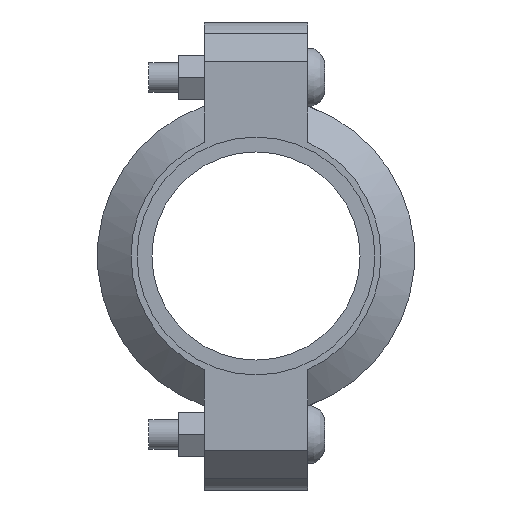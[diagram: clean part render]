
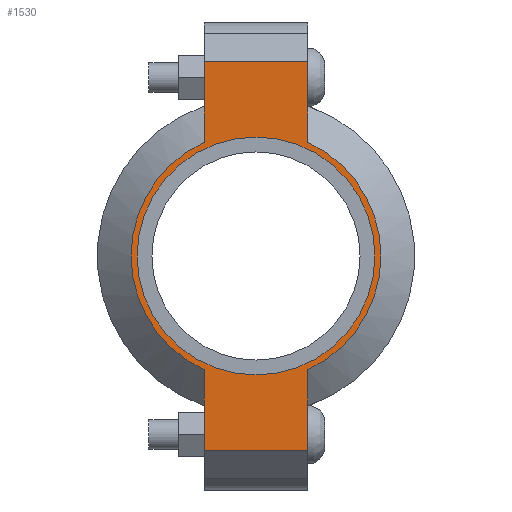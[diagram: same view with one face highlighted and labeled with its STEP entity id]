
A CAD part, left-side view. The second image highlights one B-rep face of the part: STEP entity #1530.
In plain terms, the highlighted planar face has unit normal (-1, 0, 0) as drawn and (0, 0, 1) by its records, which use the part's own axes.
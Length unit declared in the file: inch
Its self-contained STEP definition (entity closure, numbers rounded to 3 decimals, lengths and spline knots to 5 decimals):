
#192=LINE('',#2669,#285);
#205=LINE('',#2713,#298);
#210=LINE('',#2737,#303);
#217=LINE('',#2755,#310);
#224=LINE('',#2780,#317);
#225=LINE('',#2783,#318);
#285=VECTOR('',#2129,0.3937);
#298=VECTOR('',#2158,0.3937);
#303=VECTOR('',#2169,0.3937);
#310=VECTOR('',#2186,0.3937);
#317=VECTOR('',#2207,0.3937);
#318=VECTOR('',#2212,0.3937);
#366=FACE_BOUND('',#526,.T.);
#431=FACE_OUTER_BOUND('',#525,.T.);
#525=EDGE_LOOP('',(#1279,#1280,#1281,#1282,#1283,#1284,#1285,#1286));
#526=EDGE_LOOP('',(#1287));
#622=CIRCLE('',#1793,1.575);
#623=CIRCLE('',#1794,1.575);
#624=CIRCLE('',#1795,1.5);
#725=VERTEX_POINT('',#2664);
#726=VERTEX_POINT('',#2668);
#742=VERTEX_POINT('',#2710);
#743=VERTEX_POINT('',#2712);
#749=VERTEX_POINT('',#2732);
#750=VERTEX_POINT('',#2736);
#755=VERTEX_POINT('',#2752);
#756=VERTEX_POINT('',#2754);
#762=VERTEX_POINT('',#2785);
#892=EDGE_CURVE('',#726,#725,#192,.T.);
#912=EDGE_CURVE('',#743,#742,#205,.T.);
#921=EDGE_CURVE('',#750,#749,#210,.T.);
#930=EDGE_CURVE('',#756,#755,#217,.T.);
#942=EDGE_CURVE('',#750,#742,#224,.T.);
#943=EDGE_CURVE('',#749,#756,#622,.T.);
#944=EDGE_CURVE('',#726,#755,#225,.T.);
#945=EDGE_CURVE('',#725,#743,#623,.T.);
#946=EDGE_CURVE('',#762,#762,#624,.T.);
#1279=ORIENTED_EDGE('',*,*,#942,.F.);
#1280=ORIENTED_EDGE('',*,*,#921,.T.);
#1281=ORIENTED_EDGE('',*,*,#943,.T.);
#1282=ORIENTED_EDGE('',*,*,#930,.T.);
#1283=ORIENTED_EDGE('',*,*,#944,.F.);
#1284=ORIENTED_EDGE('',*,*,#892,.T.);
#1285=ORIENTED_EDGE('',*,*,#945,.T.);
#1286=ORIENTED_EDGE('',*,*,#912,.T.);
#1287=ORIENTED_EDGE('',*,*,#946,.T.);
#1383=PLANE('',#1792);
#1530=ADVANCED_FACE('',(#431,#366),#1383,.T.);
#1792=AXIS2_PLACEMENT_3D('',#2781,#2208,#2209);
#1793=AXIS2_PLACEMENT_3D('',#2782,#2210,#2211);
#1794=AXIS2_PLACEMENT_3D('',#2784,#2213,#2214);
#1795=AXIS2_PLACEMENT_3D('',#2786,#2215,#2216);
#2129=DIRECTION('',(1.,0.,0.));
#2158=DIRECTION('',(1.,0.,0.));
#2169=DIRECTION('',(-1.,0.,0.));
#2186=DIRECTION('',(-1.,0.,0.));
#2207=DIRECTION('',(0.,-1.,0.));
#2208=DIRECTION('center_axis',(0.,0.,1.));
#2209=DIRECTION('ref_axis',(-1.,0.,0.));
#2210=DIRECTION('center_axis',(0.,0.,1.));
#2211=DIRECTION('ref_axis',(1.,0.,0.));
#2212=DIRECTION('',(0.,1.,0.));
#2213=DIRECTION('center_axis',(0.,0.,1.));
#2214=DIRECTION('ref_axis',(1.,0.,0.));
#2215=DIRECTION('center_axis',(0.,0.,-1.));
#2216=DIRECTION('ref_axis',(1.,0.,0.));
#2664=CARTESIAN_POINT('',(-1.43462,-0.65,0.94));
#2668=CARTESIAN_POINT('',(-2.45,-0.65,0.94));
#2669=CARTESIAN_POINT('',(2.95,-0.65,0.94));
#2710=CARTESIAN_POINT('',(2.45,-0.65,0.94));
#2712=CARTESIAN_POINT('',(1.43462,-0.65,0.94));
#2713=CARTESIAN_POINT('',(2.95,-0.65,0.94));
#2732=CARTESIAN_POINT('',(1.43462,0.65,0.94));
#2736=CARTESIAN_POINT('',(2.45,0.65,0.94));
#2737=CARTESIAN_POINT('',(-2.95,0.65,0.94));
#2752=CARTESIAN_POINT('',(-2.45,0.65,0.94));
#2754=CARTESIAN_POINT('',(-1.43462,0.65,0.94));
#2755=CARTESIAN_POINT('',(-2.95,0.65,0.94));
#2780=CARTESIAN_POINT('',(2.45,-0.325,0.94));
#2781=CARTESIAN_POINT('Origin',(0.,0.,
0.94));
#2782=CARTESIAN_POINT('Origin',(0.,0.,0.94));
#2783=CARTESIAN_POINT('',(-2.45,0.325,0.94));
#2784=CARTESIAN_POINT('Origin',(0.,0.,0.94));
#2785=CARTESIAN_POINT('',(-1.5,0.,0.94));
#2786=CARTESIAN_POINT('Origin',(0.,0.,0.94));
